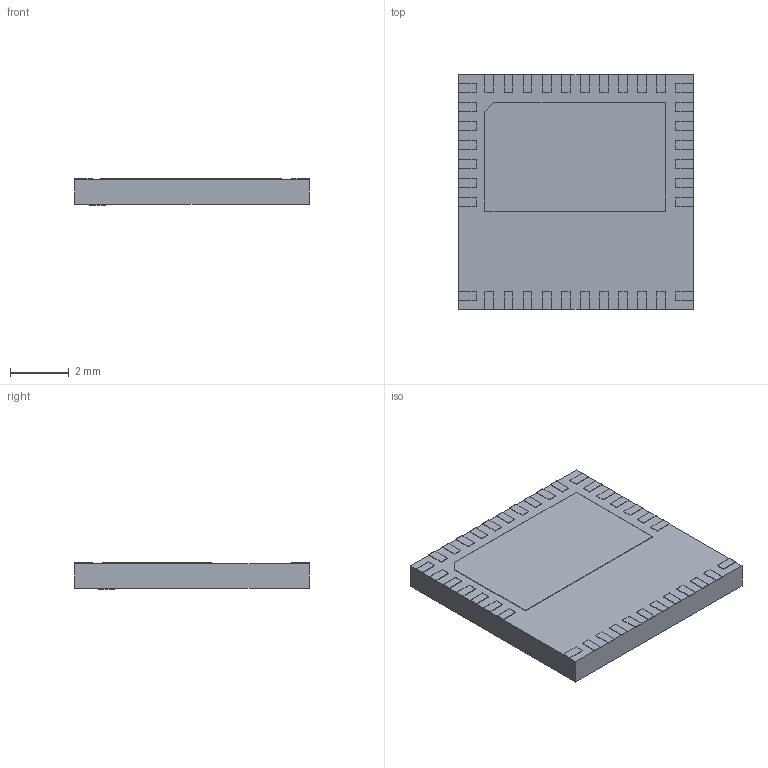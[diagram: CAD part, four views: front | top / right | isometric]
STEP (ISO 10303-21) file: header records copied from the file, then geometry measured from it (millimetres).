
FILE_DESCRIPTION(/* description */ (''),/* implementation_level */ '2;1');
FILE_NAME(/* name */ '/Users/loganribarich/Desktop/NV6169.step',/* time_stamp */ '2021-11-24T13:29:22-08:00',/* author */ (''),/* organization */ (''),/* preprocessor_version */ 'ST-DEVELOPER v18.1',/* originating_system */ 'Autodesk Translation Framework v10.10.0.1391',/* authorisation */ '');
FILE_SCHEMA (('AUTOMOTIVE_DESIGN { 1 0 10303 214 3 1 1 }'));
Length unit declared in the file: millimetre
Products named in the file (1): NV6169
Bounding box: 8 x 8 x 0.89 mm (x, y, z)
Volume: 54.9 mm3; surface area: 215.1 mm2
Topology: 38 solids, 38 shells, 231 faces, 462 edges, 308 vertices
Faces by surface type: plane 230, cylinder 1
Full cylindrical faces by diameter (mm): 0.542 x1
Entity records: 5869 total; most frequent: CARTESIAN_POINT 1002, DIRECTION 928, ORIENTED_EDGE 924, EDGE_CURVE 462, LINE 460, VECTOR 460, VERTEX_POINT 308, AXIS2_PLACEMENT_3D 234
